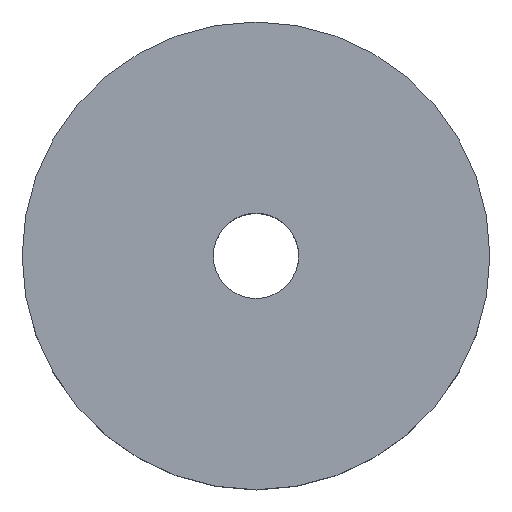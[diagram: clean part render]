
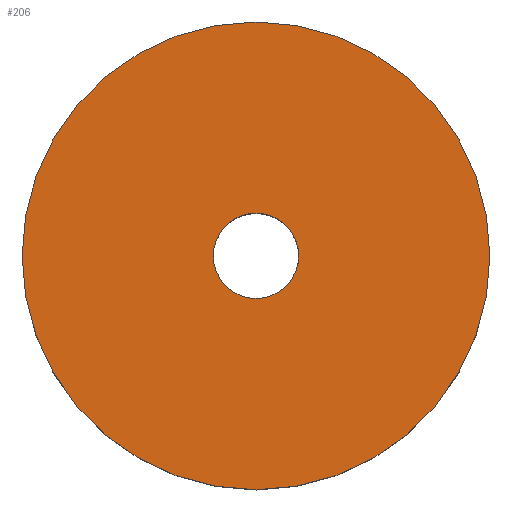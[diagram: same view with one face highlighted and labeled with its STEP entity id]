
A CAD part, top view. The second image highlights one B-rep face of the part: STEP entity #206.
In plain terms, the highlighted planar face has unit normal (0, 0, 1).
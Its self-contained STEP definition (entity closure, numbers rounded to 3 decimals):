
#18=FACE_BOUND('',#67,.T.);
#23=PLANE('',#250);
#28=CIRCLE('',#237,3.);
#34=CIRCLE('',#249,16.45);
#51=FACE_OUTER_BOUND('',#66,.T.);
#66=EDGE_LOOP('',(#191));
#67=EDGE_LOOP('',(#192));
#107=VERTEX_POINT('',#549);
#113=VERTEX_POINT('',#570);
#131=EDGE_CURVE('',#107,#107,#28,.T.);
#140=EDGE_CURVE('',#113,#113,#34,.T.);
#191=ORIENTED_EDGE('',*,*,#140,.T.);
#192=ORIENTED_EDGE('',*,*,#131,.T.);
#206=ADVANCED_FACE('',(#51,#18),#23,.T.);
#237=AXIS2_PLACEMENT_3D('',#551,#272,#273);
#249=AXIS2_PLACEMENT_3D('',#572,#299,#300);
#250=AXIS2_PLACEMENT_3D('',#573,#301,#302);
#272=DIRECTION('center_axis',(0.,0.,-1.));
#273=DIRECTION('ref_axis',(-1.,0.,0.));
#299=DIRECTION('center_axis',(0.,0.,1.));
#300=DIRECTION('ref_axis',(1.,0.,0.));
#301=DIRECTION('center_axis',(0.,0.,1.));
#302=DIRECTION('ref_axis',(1.,0.,0.));
#549=CARTESIAN_POINT('',(3.,0.,0.));
#551=CARTESIAN_POINT('Origin',(0.,0.,0.));
#570=CARTESIAN_POINT('',(-16.45,0.,0.));
#572=CARTESIAN_POINT('Origin',(0.,0.,0.));
#573=CARTESIAN_POINT('Origin',(0.,0.,0.));
